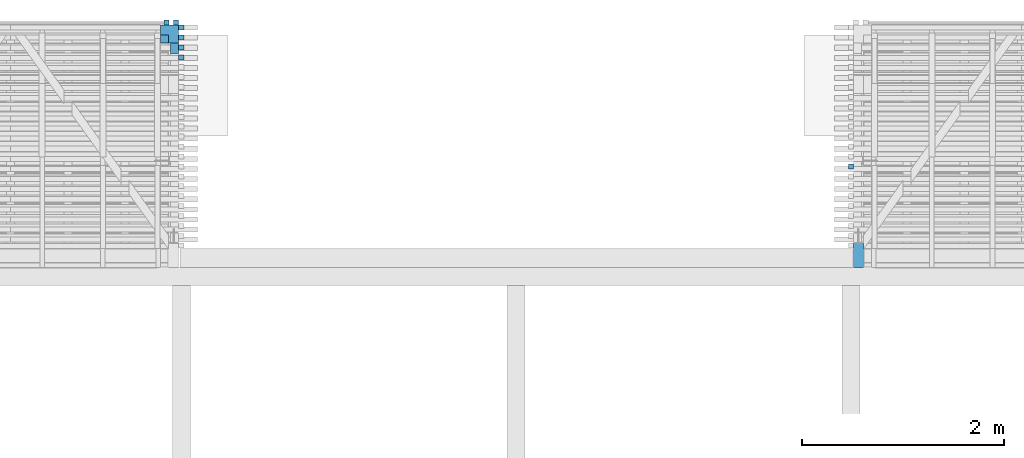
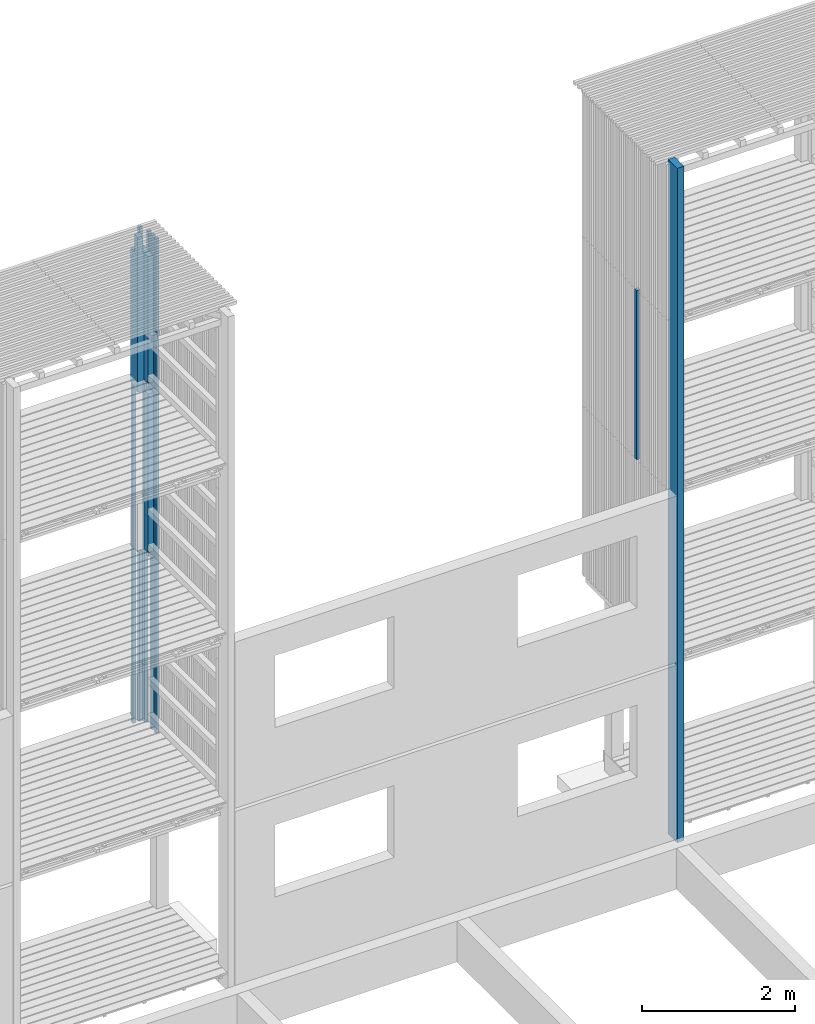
# One storey, part 32 of 182: 19 beams.
"""IFC2X3 building model written with IfcOpenShell, lengths in metres."""

from ifc_helpers import new_model, si_unit, frame, origin, place, context, project, spatial, faceted_brep, element, save


model = new_model("IFC2X3")

# Units and contexts
model_context = context("Model", 3, precision=1e-06, world=origin())
ifc_project = project(units=[si_unit("LENGTHUNIT", "METRE"), si_unit("PLANEANGLEUNIT", "RADIAN")], contexts=[model_context])

# Site, building, storey
site = spatial("IfcSite", under=ifc_project, CompositionType="ELEMENT")
building = spatial("IfcBuilding", under=site, CompositionType="ELEMENT")
storey = spatial("IfcBuildingStorey", under=building, Name="vs", CompositionType="ELEMENT", Elevation=-0.85)

# Beams
placement = place(None, origin())
beam_1_placement = place(placement, frame((13.299197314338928, 11.470532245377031, 5.274999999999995), z_axis=(1.0, 0.0, 0.0), x_axis=(0.0, 0.0, 1.0)))
element("IfcBeam", 1, at=beam_1_placement, inside=storey, Name="Bardage", context=model_context, shape_type="Brep", body=[
    faceted_brep([(2.699999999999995, 0.024999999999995, 0.025000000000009), (2.699999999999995, -0.025000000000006, 0.025000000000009), (2.699999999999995, -0.025000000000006, -0.025000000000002), (2.699999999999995, 0.024999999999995, -0.025000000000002), (1e-15, 0.024999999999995, 0.025000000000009), (2.699999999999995, 0.024999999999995, 0.025000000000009), (2.699999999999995, 0.024999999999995, -0.025000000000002), (1e-15, 0.024999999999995, -0.025000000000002), (1e-15, -0.025000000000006, 0.025000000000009), (1e-15, 0.024999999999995, 0.025000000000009), (1e-15, 0.024999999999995, -0.025000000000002), (1e-15, -0.025000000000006, -0.025000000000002), (1e-15, 0.024999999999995, 0.025000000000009), (1e-15, -0.025000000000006, 0.025000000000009), (2.699999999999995, -0.025000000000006, 0.025000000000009), (2.699999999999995, 0.024999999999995, 0.025000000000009), (1e-15, -0.025000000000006, 0.025000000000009), (1e-15, -0.025000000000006, -0.025000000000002), (2.699999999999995, -0.025000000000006, -0.025000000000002), (2.699999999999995, -0.025000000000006, 0.025000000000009), (1e-15, -0.025000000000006, -0.025000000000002), (1e-15, 0.024999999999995, -0.025000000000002), (2.699999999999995, 0.024999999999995, -0.025000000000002), (2.699999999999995, -0.025000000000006, -0.025000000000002)], [[[0, 1, 2, 3]], [[4, 5, 6, 7]], [[8, 9, 10, 11]], [[12, 13, 14, 15]], [[16, 17, 18, 19]], [[20, 21, 22, 23]]]),
])
beam_2_placement = place(placement, frame((13.374197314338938, 10.590077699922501, 10.494999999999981), z_axis=(0.0, 1.0, 0.0), x_axis=(0.0, 0.0, -1.0)))
element("IfcBeam", 2, at=beam_2_placement, inside=storey, Name="Poteau", context=model_context, shape_type="Brep", body=[
    faceted_brep([(0.0, -0.049999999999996, 0.120000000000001), (0.0, -0.049999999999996, -0.120000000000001), (10.754999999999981, -0.049999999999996, -0.120000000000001), (10.754999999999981, -0.049999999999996, 0.120000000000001), (10.754999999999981, -0.049999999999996, -0.120000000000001), (0.0, -0.049999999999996, -0.120000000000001), (0.0, 0.049999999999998, -0.120000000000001), (10.754999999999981, 0.049999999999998, -0.120000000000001), (10.754999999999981, -0.049999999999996, 0.120000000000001), (10.754999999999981, -0.049999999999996, -0.120000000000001), (10.754999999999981, 0.049999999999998, -0.120000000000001), (10.754999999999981, 0.049999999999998, 0.120000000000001), (0.0, -0.049999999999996, 0.120000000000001), (10.754999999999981, -0.049999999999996, 0.120000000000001), (10.754999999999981, 0.049999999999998, 0.120000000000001), (0.0, 0.049999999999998, 0.120000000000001), (10.754999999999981, 0.049999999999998, -0.120000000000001), (0.0, 0.049999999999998, -0.120000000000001), (0.0, 0.049999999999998, 0.120000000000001), (10.754999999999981, 0.049999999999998, 0.120000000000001), (0.0, 0.049999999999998, 0.120000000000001), (0.0, 0.049999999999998, -0.120000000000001), (0.0, -0.049999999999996, -0.120000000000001), (0.0, -0.049999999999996, 0.120000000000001)], [[[0, 1, 2, 3]], [[4, 5, 6, 7]], [[8, 9, 10, 11]], [[12, 13, 14, 15]], [[16, 17, 18, 19]], [[20, 21, 22, 23]]]),
])
beam_3_placement = place(placement, frame((6.619197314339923, 12.895077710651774, 7.974999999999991), z_axis=(0.0, -1.0, 0.0), x_axis=(0.0, 0.0, 1.0)))
element("IfcBeam", 3, at=beam_3_placement, inside=storey, Name="Bardage", context=model_context, shape_type="Brep", body=[
    faceted_brep([(0.0, -0.025000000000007, 0.025000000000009), (0.0, 0.025000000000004, 0.025000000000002), (0.0, 0.02499999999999, -0.025000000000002), (0.0, -0.025000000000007, -0.024999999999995), (2.479999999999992, 0.02499999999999, -0.024999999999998), (2.479999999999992, 0.025000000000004, 0.024999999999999), (2.479999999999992, -0.025000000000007, 0.025000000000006), (2.479999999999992, -0.025000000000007, -0.024999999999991), (0.0, 0.025000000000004, 0.025000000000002), (0.0, -0.025000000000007, 0.025000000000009), (2.479999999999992, -0.025000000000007, 0.025000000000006), (2.479999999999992, 0.025000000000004, 0.024999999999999), (0.0, 0.02499999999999, -0.025000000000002), (0.0, 0.025000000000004, 0.025000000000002), (2.479999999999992, 0.025000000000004, 0.024999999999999), (2.479999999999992, 0.02499999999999, -0.024999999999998), (0.0, -0.025000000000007, -0.024999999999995), (0.0, 0.02499999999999, -0.025000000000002), (2.479999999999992, 0.02499999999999, -0.024999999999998), (2.479999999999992, -0.025000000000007, -0.024999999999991), (2.479999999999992, -0.025000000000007, 0.025000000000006), (0.0, -0.025000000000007, 0.025000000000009), (0.0, -0.025000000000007, -0.024999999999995), (2.479999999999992, -0.025000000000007, -0.024999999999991)], [[[0, 1, 2, 3]], [[4, 5, 6, 7]], [[8, 9, 10, 11]], [[12, 13, 14, 15]], [[16, 17, 18, 19]], [[20, 21, 22, 23]]]),
])
beam_4_placement = place(placement, frame((6.66919731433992, 12.550532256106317, 5.274999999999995), z_axis=(-1.0, 0.0, 0.0), x_axis=(0.0, 0.0, 1.0)))
element("IfcBeam", 4, at=beam_4_placement, inside=storey, Name="Bardage", context=model_context, shape_type="Brep", body=[
    faceted_brep([(1e-15, -0.025000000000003, 0.024999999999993), (1e-15, 0.024999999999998, 0.024999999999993), (1e-15, 0.024999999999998, -0.025000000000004), (1e-15, -0.025000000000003, -0.025000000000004), (2.699999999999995, -0.025000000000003, -0.025000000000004), (2.699999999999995, 0.024999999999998, -0.025000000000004), (2.699999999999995, 0.024999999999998, 0.024999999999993), (2.699999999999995, -0.025000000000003, 0.024999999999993), (1e-15, -0.025000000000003, 0.024999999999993), (1e-15, -0.025000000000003, -0.025000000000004), (2.699999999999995, -0.025000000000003, -0.025000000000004), (2.699999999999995, -0.025000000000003, 0.024999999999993), (2.699999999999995, -0.025000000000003, -0.025000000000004), (1e-15, -0.025000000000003, -0.025000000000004), (1e-15, 0.024999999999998, -0.025000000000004), (2.699999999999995, 0.024999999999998, -0.025000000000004), (2.699999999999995, 0.024999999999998, -0.025000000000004), (1e-15, 0.024999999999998, -0.025000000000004), (1e-15, 0.024999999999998, 0.024999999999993), (2.699999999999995, 0.024999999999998, 0.024999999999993), (2.699999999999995, 0.024999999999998, 0.024999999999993), (1e-15, 0.024999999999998, 0.024999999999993), (1e-15, -0.025000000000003, 0.024999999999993), (2.699999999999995, -0.025000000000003, 0.024999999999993)], [[[0, 1, 2, 3]], [[4, 5, 6, 7]], [[8, 9, 10, 11]], [[12, 13, 14, 15]], [[16, 17, 18, 19]], [[20, 21, 22, 23]]]),
])
beam_5_placement = place(placement, frame((6.66919731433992, 12.648714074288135, 7.974999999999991), z_axis=(-1.0, 0.0, 0.0), x_axis=(0.0, 0.0, 1.0)))
element("IfcBeam", 5, at=beam_5_placement, inside=storey, Name="Bardage", context=model_context, shape_type="Brep", body=[
    faceted_brep([(2.479999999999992, -0.025000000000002, 0.024999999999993), (2.479999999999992, -0.025000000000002, -0.025000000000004), (2.479999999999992, 0.024999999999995, -0.025000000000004), (2.479999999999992, 0.024999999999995, 0.024999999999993), (0.0, 0.024999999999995, 0.024999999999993), (0.0, -0.025000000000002, 0.024999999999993), (2.479999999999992, -0.025000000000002, 0.024999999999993), (2.479999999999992, 0.024999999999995, 0.024999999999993), (0.0, -0.025000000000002, 0.024999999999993), (0.0, 0.024999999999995, 0.024999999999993), (0.0, 0.024999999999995, -0.025000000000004), (0.0, -0.025000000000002, -0.025000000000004), (0.0, 0.024999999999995, -0.025000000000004), (0.0, 0.024999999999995, 0.024999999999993), (2.479999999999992, 0.024999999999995, 0.024999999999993), (2.479999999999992, 0.024999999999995, -0.025000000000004), (0.0, -0.025000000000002, -0.025000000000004), (0.0, 0.024999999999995, -0.025000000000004), (2.479999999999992, 0.024999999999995, -0.025000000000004), (2.479999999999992, -0.025000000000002, -0.025000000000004), (2.479999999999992, -0.025000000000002, 0.024999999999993), (0.0, -0.025000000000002, 0.024999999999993), (0.0, -0.025000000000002, -0.025000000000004), (2.479999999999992, -0.025000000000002, -0.025000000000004)], [[[0, 1, 2, 3]], [[4, 5, 6, 7]], [[8, 9, 10, 11]], [[12, 13, 14, 15]], [[16, 17, 18, 19]], [[20, 21, 22, 23]]]),
])
beam_6_placement = place(placement, frame((6.66919731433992, 12.550532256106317, 7.974999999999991), z_axis=(-1.0, 0.0, 0.0), x_axis=(0.0, 0.0, 1.0)))
element("IfcBeam", 6, at=beam_6_placement, inside=storey, Name="Bardage", context=model_context, shape_type="Brep", body=[
    faceted_brep([(2.479999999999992, -0.025000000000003, 0.024999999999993), (2.479999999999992, -0.025000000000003, -0.025000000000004), (2.479999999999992, 0.024999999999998, -0.025000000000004), (2.479999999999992, 0.024999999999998, 0.024999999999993), (0.0, 0.024999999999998, 0.024999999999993), (0.0, -0.025000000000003, 0.024999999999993), (2.479999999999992, -0.025000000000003, 0.024999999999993), (2.479999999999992, 0.024999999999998, 0.024999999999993), (0.0, -0.025000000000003, 0.024999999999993), (0.0, 0.024999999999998, 0.024999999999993), (0.0, 0.024999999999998, -0.025000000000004), (0.0, -0.025000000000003, -0.025000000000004), (0.0, 0.024999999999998, -0.025000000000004), (0.0, 0.024999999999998, 0.024999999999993), (2.479999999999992, 0.024999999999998, 0.024999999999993), (2.479999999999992, 0.024999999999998, -0.025000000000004), (0.0, -0.025000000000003, -0.025000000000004), (0.0, 0.024999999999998, -0.025000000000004), (2.479999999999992, 0.024999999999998, -0.025000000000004), (2.479999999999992, -0.025000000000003, -0.025000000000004), (2.479999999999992, -0.025000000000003, 0.024999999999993), (0.0, -0.025000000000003, 0.024999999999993), (0.0, -0.025000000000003, -0.025000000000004), (2.479999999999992, -0.025000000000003, -0.025000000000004)], [[[0, 1, 2, 3]], [[4, 5, 6, 7]], [[8, 9, 10, 11]], [[12, 13, 14, 15]], [[16, 17, 18, 19]], [[20, 21, 22, 23]]]),
])
beam_7_placement = place(placement, frame((6.66919731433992, 12.746895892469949, 7.974999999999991), z_axis=(-1.0, 0.0, 0.0), x_axis=(0.0, 0.0, 1.0)))
element("IfcBeam", 7, at=beam_7_placement, inside=storey, Name="Bardage", context=model_context, shape_type="Brep", body=[
    faceted_brep([(2.479999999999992, -0.025000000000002, 0.024999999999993), (2.479999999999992, -0.025000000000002, -0.025000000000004), (2.479999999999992, 0.025000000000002, -0.025000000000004), (2.479999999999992, 0.025000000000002, 0.024999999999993), (0.0, 0.024999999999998, 0.024999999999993), (0.0, -0.025000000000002, 0.024999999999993), (2.479999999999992, -0.025000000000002, 0.024999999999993), (2.479999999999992, 0.025000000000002, 0.024999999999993), (0.0, -0.025000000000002, 0.024999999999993), (0.0, 0.024999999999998, 0.024999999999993), (0.0, 0.024999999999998, -0.025000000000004), (0.0, -0.025000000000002, -0.025000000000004), (0.0, 0.024999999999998, -0.025000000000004), (0.0, 0.024999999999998, 0.024999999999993), (2.479999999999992, 0.025000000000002, 0.024999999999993), (2.479999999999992, 0.025000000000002, -0.025000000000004), (0.0, -0.025000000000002, -0.025000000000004), (0.0, 0.024999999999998, -0.025000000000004), (2.479999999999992, 0.025000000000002, -0.025000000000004), (2.479999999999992, -0.025000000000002, -0.025000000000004), (2.479999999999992, -0.025000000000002, 0.024999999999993), (0.0, -0.025000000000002, 0.024999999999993), (0.0, -0.025000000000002, -0.025000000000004), (2.479999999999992, -0.025000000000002, -0.025000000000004)], [[[0, 1, 2, 3]], [[4, 5, 6, 7]], [[8, 9, 10, 11]], [[12, 13, 14, 15]], [[16, 17, 18, 19]], [[20, 21, 22, 23]]]),
])
beam_8_placement = place(placement, frame((6.604197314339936, 12.640077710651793, 5.446999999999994), z_axis=(0.0, -1.0, 0.0), x_axis=(0.0, 0.0, 1.0)))
element("IfcBeam", 8, at=beam_8_placement, inside=storey, Name="Support bardage", context=model_context, shape_type="Brep", body=[
    faceted_brep([(2.527999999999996, -0.039999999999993, 0.050000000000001), (2.527999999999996, -0.039999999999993, -0.05), (2.527999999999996, 0.04000000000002, -0.05), (2.527999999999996, 0.04000000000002, 0.050000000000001), (0.0, 0.04000000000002, 0.050000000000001), (0.0, -0.039999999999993, 0.050000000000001), (2.527999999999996, -0.039999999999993, 0.050000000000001), (2.527999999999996, 0.04000000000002, 0.050000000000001), (0.0, -0.039999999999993, 0.050000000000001), (0.0, 0.04000000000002, 0.050000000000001), (0.0, 0.04000000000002, -0.05), (0.0, -0.039999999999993, -0.05), (2.527999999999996, -0.039999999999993, 0.050000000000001), (0.0, -0.039999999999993, 0.050000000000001), (0.0, -0.039999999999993, -0.05), (2.527999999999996, -0.039999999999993, -0.05), (2.527999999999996, -0.039999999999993, -0.05), (0.0, -0.039999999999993, -0.05), (0.0, 0.04000000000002, -0.05), (2.527999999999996, 0.04000000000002, -0.05), (2.527999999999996, 0.04000000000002, -0.05), (0.0, 0.04000000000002, -0.05), (0.0, 0.04000000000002, 0.050000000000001), (2.527999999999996, 0.04000000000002, 0.050000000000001)], [[[0, 1, 2, 3]], [[4, 5, 6, 7]], [[8, 9, 10, 11]], [[12, 13, 14, 15]], [[16, 17, 18, 19]], [[20, 21, 22, 23]]]),
])
beam_9_placement = place(placement, frame((6.604197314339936, 12.640077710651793, 8.146999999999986), z_axis=(0.0, -1.0, 0.0), x_axis=(0.0, 0.0, 1.0)))
element("IfcBeam", 9, at=beam_9_placement, inside=storey, Name="Support bardage", context=model_context, shape_type="Brep", body=[
    faceted_brep([(2.017999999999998, -0.039999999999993, -0.05), (2.017999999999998, 0.04000000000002, -0.05), (2.017999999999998, 0.04000000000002, 0.050000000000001), (2.017999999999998, -0.039999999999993, 0.050000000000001), (1e-15, -0.039999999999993, 0.050000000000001), (1e-15, 0.04000000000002, 0.050000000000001), (1e-15, 0.04000000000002, -0.05), (1e-15, -0.039999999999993, -0.05), (1e-15, -0.039999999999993, 0.050000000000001), (1e-15, -0.039999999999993, -0.05), (2.017999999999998, -0.039999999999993, -0.05), (2.017999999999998, -0.039999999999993, 0.050000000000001), (1e-15, 0.04000000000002, 0.050000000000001), (1e-15, -0.039999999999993, 0.050000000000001), (2.017999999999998, -0.039999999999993, 0.050000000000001), (2.017999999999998, 0.04000000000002, 0.050000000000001), (1e-15, 0.04000000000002, -0.05), (1e-15, 0.04000000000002, 0.050000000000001), (2.017999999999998, 0.04000000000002, 0.050000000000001), (2.017999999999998, 0.04000000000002, -0.05), (1e-15, -0.039999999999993, -0.05), (1e-15, 0.04000000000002, -0.05), (2.017999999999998, 0.04000000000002, -0.05), (2.017999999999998, -0.039999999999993, -0.05)], [[[0, 1, 2, 3]], [[4, 5, 6, 7]], [[8, 9, 10, 11]], [[12, 13, 14, 15]], [[16, 17, 18, 19]], [[20, 21, 22, 23]]]),
])
beam_10_placement = place(placement, frame((6.66919731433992, 12.648714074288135, 2.575000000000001), z_axis=(-1.0, 0.0, 0.0), x_axis=(0.0, 0.0, 1.0)))
element("IfcBeam", 10, at=beam_10_placement, inside=storey, Name="Bardage", context=model_context, shape_type="Brep", body=[
    faceted_brep([(0.0, -0.025000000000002, 0.024999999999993), (0.0, 0.024999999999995, 0.024999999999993), (0.0, 0.024999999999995, -0.025000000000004), (0.0, -0.025000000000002, -0.025000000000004), (2.699961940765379, 0.024999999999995, -0.025000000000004), (2.699961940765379, 0.024999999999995, 0.024999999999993), (2.699961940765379, -0.025000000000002, 0.024999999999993), (2.699961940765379, -0.025000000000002, -0.025000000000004), (0.0, -0.025000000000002, -0.025000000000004), (0.0, 0.024999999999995, -0.025000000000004), (2.699961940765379, 0.024999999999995, -0.025000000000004), (2.699961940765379, -0.025000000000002, -0.025000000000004), (2.699961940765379, 0.024999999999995, -0.025000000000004), (0.0, 0.024999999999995, -0.025000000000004), (0.0, 0.024999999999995, 0.024999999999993), (2.699961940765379, 0.024999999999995, 0.024999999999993), (2.699961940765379, 0.024999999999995, 0.024999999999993), (0.0, 0.024999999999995, 0.024999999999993), (0.0, -0.025000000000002, 0.024999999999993), (2.699961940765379, -0.025000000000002, 0.024999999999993), (2.699961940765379, -0.025000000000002, 0.024999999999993), (0.0, -0.025000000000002, 0.024999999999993), (0.0, -0.025000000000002, -0.025000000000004), (2.699961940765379, -0.025000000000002, -0.025000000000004)], [[[0, 1, 2, 3]], [[4, 5, 6, 7]], [[8, 9, 10, 11]], [[12, 13, 14, 15]], [[16, 17, 18, 19]], [[20, 21, 22, 23]]]),
])
beam_11_placement = place(placement, frame((6.521015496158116, 12.895077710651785, 2.575000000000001), z_axis=(0.0, -1.0, 0.0), x_axis=(0.0, 0.0, 1.0)))
element("IfcBeam", 11, at=beam_11_placement, inside=storey, Name="Bardage", context=model_context, shape_type="Brep", body=[
    faceted_brep([(2.699961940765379, -0.024999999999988, 0.025000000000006), (2.699961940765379, -0.025000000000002, -0.024999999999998), (2.699961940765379, 0.024999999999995, -0.025000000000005), (2.699961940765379, 0.025000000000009, 0.024999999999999), (0.0, -0.024999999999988, 0.025000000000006), (2.699961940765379, -0.024999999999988, 0.025000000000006), (2.699961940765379, 0.025000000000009, 0.024999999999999), (0.0, 0.025000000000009, 0.024999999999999), (0.0, -0.024999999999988, 0.025000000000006), (0.0, 0.025000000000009, 0.024999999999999), (0.0, 0.024999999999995, -0.025000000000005), (0.0, -0.025000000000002, -0.024999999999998), (0.0, -0.024999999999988, 0.025000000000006), (0.0, -0.025000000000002, -0.024999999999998), (2.699961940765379, -0.025000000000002, -0.024999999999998), (2.699961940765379, -0.024999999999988, 0.025000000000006), (0.0, -0.025000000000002, -0.024999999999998), (0.0, 0.024999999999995, -0.025000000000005), (2.699961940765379, 0.024999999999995, -0.025000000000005), (2.699961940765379, -0.025000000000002, -0.024999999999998), (0.0, 0.024999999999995, -0.025000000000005), (0.0, 0.025000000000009, 0.024999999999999), (2.699961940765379, 0.025000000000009, 0.024999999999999), (2.699961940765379, 0.024999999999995, -0.025000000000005)], [[[0, 1, 2, 3]], [[4, 5, 6, 7]], [[8, 9, 10, 11]], [[12, 13, 14, 15]], [[16, 17, 18, 19]], [[20, 21, 22, 23]]]),
])
beam_12_placement = place(placement, frame((6.66919731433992, 12.84507771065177, 5.274999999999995), z_axis=(-1.0, 0.0, 0.0), x_axis=(0.0, 0.0, 1.0)))
element("IfcBeam", 12, at=beam_12_placement, inside=storey, Name="Bardage", context=model_context, shape_type="Brep", body=[
    faceted_brep([(1e-15, -0.025000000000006, 0.024999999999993), (1e-15, 0.024999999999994, 0.024999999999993), (1e-15, 0.024999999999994, -0.025000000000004), (1e-15, -0.025000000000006, -0.025000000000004), (2.699999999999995, -0.025000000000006, -0.025000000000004), (2.699999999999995, 0.024999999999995, -0.025000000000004), (2.699999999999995, 0.024999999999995, 0.024999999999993), (2.699999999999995, -0.025000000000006, 0.024999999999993), (1e-15, -0.025000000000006, 0.024999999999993), (1e-15, -0.025000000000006, -0.025000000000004), (2.699999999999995, -0.025000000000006, -0.025000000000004), (2.699999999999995, -0.025000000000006, 0.024999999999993), (2.699999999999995, -0.025000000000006, -0.025000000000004), (1e-15, -0.025000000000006, -0.025000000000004), (1e-15, 0.024999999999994, -0.025000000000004), (2.699999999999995, 0.024999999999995, -0.025000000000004), (2.699999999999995, 0.024999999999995, -0.025000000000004), (1e-15, 0.024999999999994, -0.025000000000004), (1e-15, 0.024999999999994, 0.024999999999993), (2.699999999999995, 0.024999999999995, 0.024999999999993), (2.699999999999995, 0.024999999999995, 0.024999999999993), (1e-15, 0.024999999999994, 0.024999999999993), (1e-15, -0.025000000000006, 0.024999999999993), (2.699999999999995, -0.025000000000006, 0.024999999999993)], [[[0, 1, 2, 3]], [[4, 5, 6, 7]], [[8, 9, 10, 11]], [[12, 13, 14, 15]], [[16, 17, 18, 19]], [[20, 21, 22, 23]]]),
])
beam_13_placement = place(placement, frame((6.66919731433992, 12.84507771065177, 2.575000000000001), z_axis=(-1.0, 0.0, 0.0), x_axis=(0.0, 0.0, 1.0)))
element("IfcBeam", 13, at=beam_13_placement, inside=storey, Name="Bardage", context=model_context, shape_type="Brep", body=[
    faceted_brep([(0.0, -0.025000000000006, 0.024999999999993), (0.0, 0.024999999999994, 0.024999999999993), (0.0, 0.024999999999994, -0.025000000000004), (0.0, -0.025000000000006, -0.025000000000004), (2.699961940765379, 0.024999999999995, -0.025000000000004), (2.699961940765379, 0.024999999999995, 0.024999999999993), (2.699961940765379, -0.025000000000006, 0.024999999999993), (2.699961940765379, -0.025000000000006, -0.025000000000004), (0.0, -0.025000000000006, -0.025000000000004), (0.0, 0.024999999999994, -0.025000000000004), (2.699961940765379, 0.024999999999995, -0.025000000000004), (2.699961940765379, -0.025000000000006, -0.025000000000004), (2.699961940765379, 0.024999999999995, -0.025000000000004), (0.0, 0.024999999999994, -0.025000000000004), (0.0, 0.024999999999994, 0.024999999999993), (2.699961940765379, 0.024999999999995, 0.024999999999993), (2.699961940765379, 0.024999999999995, 0.024999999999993), (0.0, 0.024999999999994, 0.024999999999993), (0.0, -0.025000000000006, 0.024999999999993), (2.699961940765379, -0.025000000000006, 0.024999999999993), (2.699961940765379, -0.025000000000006, 0.024999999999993), (0.0, -0.025000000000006, 0.024999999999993), (0.0, -0.025000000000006, -0.025000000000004), (2.699961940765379, -0.025000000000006, -0.025000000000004)], [[[0, 1, 2, 3]], [[4, 5, 6, 7]], [[8, 9, 10, 11]], [[12, 13, 14, 15]], [[16, 17, 18, 19]], [[20, 21, 22, 23]]]),
])
beam_14_placement = place(placement, frame((6.619197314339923, 12.895077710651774, 2.575000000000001), z_axis=(0.0, -1.0, 0.0), x_axis=(0.0, 0.0, 1.0)))
element("IfcBeam", 14, at=beam_14_placement, inside=storey, Name="Bardage", context=model_context, shape_type="Brep", body=[
    faceted_brep([(2.699961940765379, -0.025000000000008, 0.025000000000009), (2.699961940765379, -0.025000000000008, -0.024999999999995), (2.699961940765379, 0.02499999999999, -0.025000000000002), (2.699961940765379, 0.025000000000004, 0.025000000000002), (0.0, -0.025000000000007, 0.025000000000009), (2.699961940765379, -0.025000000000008, 0.025000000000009), (2.699961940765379, 0.025000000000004, 0.025000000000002), (0.0, 0.025000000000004, 0.025000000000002), (0.0, -0.025000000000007, 0.025000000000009), (0.0, 0.025000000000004, 0.025000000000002), (0.0, 0.02499999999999, -0.025000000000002), (0.0, -0.025000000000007, -0.024999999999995), (0.0, -0.025000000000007, 0.025000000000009), (0.0, -0.025000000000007, -0.024999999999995), (2.699961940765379, -0.025000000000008, -0.024999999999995), (2.699961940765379, -0.025000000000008, 0.025000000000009), (0.0, -0.025000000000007, -0.024999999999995), (0.0, 0.02499999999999, -0.025000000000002), (2.699961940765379, 0.02499999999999, -0.025000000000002), (2.699961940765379, -0.025000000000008, -0.024999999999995), (0.0, 0.02499999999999, -0.025000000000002), (0.0, 0.025000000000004, 0.025000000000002), (2.699961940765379, 0.025000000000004, 0.025000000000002), (2.699961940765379, 0.02499999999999, -0.025000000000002)], [[[0, 1, 2, 3]], [[4, 5, 6, 7]], [[8, 9, 10, 11]], [[12, 13, 14, 15]], [[16, 17, 18, 19]], [[20, 21, 22, 23]]]),
])
beam_15_placement = place(placement, frame((6.66919731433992, 12.648714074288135, 5.274999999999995), z_axis=(-1.0, 0.0, 0.0), x_axis=(0.0, 0.0, 1.0)))
element("IfcBeam", 15, at=beam_15_placement, inside=storey, Name="Bardage", context=model_context, shape_type="Brep", body=[
    faceted_brep([(1e-15, -0.025000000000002, 0.024999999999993), (1e-15, 0.024999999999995, 0.024999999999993), (1e-15, 0.024999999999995, -0.025000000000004), (1e-15, -0.025000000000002, -0.025000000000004), (2.699999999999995, -0.025000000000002, -0.025000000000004), (2.699999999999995, 0.024999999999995, -0.025000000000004), (2.699999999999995, 0.024999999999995, 0.024999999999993), (2.699999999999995, -0.025000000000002, 0.024999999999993), (1e-15, -0.025000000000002, 0.024999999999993), (1e-15, -0.025000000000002, -0.025000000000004), (2.699999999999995, -0.025000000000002, -0.025000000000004), (2.699999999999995, -0.025000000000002, 0.024999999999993), (2.699999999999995, -0.025000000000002, -0.025000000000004), (1e-15, -0.025000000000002, -0.025000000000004), (1e-15, 0.024999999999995, -0.025000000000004), (2.699999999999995, 0.024999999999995, -0.025000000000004), (2.699999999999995, 0.024999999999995, -0.025000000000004), (1e-15, 0.024999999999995, -0.025000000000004), (1e-15, 0.024999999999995, 0.024999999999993), (2.699999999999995, 0.024999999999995, 0.024999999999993), (2.699999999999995, 0.024999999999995, 0.024999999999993), (1e-15, 0.024999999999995, 0.024999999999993), (1e-15, -0.025000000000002, 0.024999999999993), (2.699999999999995, -0.025000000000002, 0.024999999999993)], [[[0, 1, 2, 3]], [[4, 5, 6, 7]], [[8, 9, 10, 11]], [[12, 13, 14, 15]], [[16, 17, 18, 19]], [[20, 21, 22, 23]]]),
])
beam_16_placement = place(placement, frame((6.66919731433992, 12.550532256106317, 2.575000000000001), z_axis=(-1.0, 0.0, 0.0), x_axis=(0.0, 0.0, 1.0)))
element("IfcBeam", 16, at=beam_16_placement, inside=storey, Name="Bardage", context=model_context, shape_type="Brep", body=[
    faceted_brep([(0.0, -0.025000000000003, 0.024999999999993), (0.0, 0.024999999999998, 0.024999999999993), (0.0, 0.024999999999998, -0.025000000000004), (0.0, -0.025000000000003, -0.025000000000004), (2.699961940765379, 0.024999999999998, -0.025000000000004), (2.699961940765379, 0.024999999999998, 0.024999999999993), (2.699961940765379, -0.025000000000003, 0.024999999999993), (2.699961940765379, -0.025000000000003, -0.025000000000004), (0.0, -0.025000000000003, -0.025000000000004), (0.0, 0.024999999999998, -0.025000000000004), (2.699961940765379, 0.024999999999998, -0.025000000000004), (2.699961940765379, -0.025000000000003, -0.025000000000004), (2.699961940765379, 0.024999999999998, -0.025000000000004), (0.0, 0.024999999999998, -0.025000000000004), (0.0, 0.024999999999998, 0.024999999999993), (2.699961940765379, 0.024999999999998, 0.024999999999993), (2.699961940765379, 0.024999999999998, 0.024999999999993), (0.0, 0.024999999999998, 0.024999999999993), (0.0, -0.025000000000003, 0.024999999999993), (2.699961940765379, -0.025000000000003, 0.024999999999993), (2.699961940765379, -0.025000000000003, 0.024999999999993), (0.0, -0.025000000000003, 0.024999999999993), (0.0, -0.025000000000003, -0.025000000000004), (2.699961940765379, -0.025000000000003, -0.025000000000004)], [[[0, 1, 2, 3]], [[4, 5, 6, 7]], [[8, 9, 10, 11]], [[12, 13, 14, 15]], [[16, 17, 18, 19]], [[20, 21, 22, 23]]]),
])
beam_17_placement = place(placement, frame((6.554197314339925, 12.780077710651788, 7.979999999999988), z_axis=(0.0, -1.0, 0.0), x_axis=(0.0, 0.0, 1.0)))
element("IfcBeam", 17, at=beam_17_placement, inside=storey, Name="Poteau", context=model_context, shape_type="Brep", body=[
    faceted_brep([(2.474999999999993, 0.009999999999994, 0.089999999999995), (2.474999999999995, 0.009999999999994, 0.009999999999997), (2.474999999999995, 0.090000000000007, 0.009999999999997), (2.474999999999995, 0.090000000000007, 0.089999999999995), (2.194999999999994, 0.009999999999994, 0.089999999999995), (2.194999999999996, 0.009999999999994, 0.009999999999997), (2.474999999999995, 0.009999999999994, 0.009999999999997), (2.474999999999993, 0.009999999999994, 0.089999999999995), (2.194999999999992, -0.09, 0.089999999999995), (2.194999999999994, -0.09, -0.090000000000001), (2.194999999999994, 0.090000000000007, -0.090000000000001), (2.194999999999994, 0.090000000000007, 0.009999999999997), (2.194999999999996, 0.009999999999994, 0.009999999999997), (2.194999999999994, 0.009999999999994, 0.089999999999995), (2.474999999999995, 0.090000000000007, 0.009999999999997), (2.474999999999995, 0.009999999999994, 0.009999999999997), (2.194999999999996, 0.009999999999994, 0.009999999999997), (2.194999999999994, 0.090000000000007, 0.009999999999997), (0.059999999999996, 0.090000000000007, -0.010000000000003), (-1e-15, 0.090000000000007, -0.010000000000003), (-1e-15, 0.090000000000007, 0.089999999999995), (2.474999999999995, 0.090000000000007, 0.089999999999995), (2.474999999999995, 0.090000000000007, 0.009999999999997), (2.194999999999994, 0.090000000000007, 0.009999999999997), (2.194999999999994, 0.090000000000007, -0.090000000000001), (0.059999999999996, 0.090000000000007, -0.090000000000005), (0.139999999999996, -0.09, 0.089999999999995), (0.139999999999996, 0.009999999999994, 0.089999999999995), (0.139999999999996, 0.009999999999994, -0.090000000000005), (0.139999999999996, -0.09, -0.090000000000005), (-1e-15, 0.090000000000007, -0.010000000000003), (0.059999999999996, 0.090000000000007, -0.010000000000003), (0.059999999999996, 0.009999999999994, -0.009999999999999), (-1e-15, 0.009999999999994, -0.010000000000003), (-1e-15, 0.090000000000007, 0.089999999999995), (-1e-15, 0.090000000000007, -0.010000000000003), (-1e-15, 0.009999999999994, -0.010000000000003), (-1e-15, 0.009999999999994, 0.089999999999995), (0.139999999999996, 0.009999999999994, -0.090000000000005), (0.139999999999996, 0.009999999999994, 0.089999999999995), (-1e-15, 0.009999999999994, 0.089999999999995), (-1e-15, 0.009999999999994, -0.010000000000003), (0.059999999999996, 0.009999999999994, -0.009999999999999), (0.059999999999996, 0.009999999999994, -0.090000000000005), (0.059999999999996, 0.009999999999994, -0.090000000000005), (0.059999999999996, 0.009999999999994, -0.009999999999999), (0.059999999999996, 0.090000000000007, -0.010000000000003), (0.059999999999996, 0.090000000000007, -0.090000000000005), (0.139999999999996, -0.09, -0.090000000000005), (0.139999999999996, 0.009999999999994, -0.090000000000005), (0.059999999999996, 0.009999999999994, -0.090000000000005), (0.059999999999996, 0.090000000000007, -0.090000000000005), (2.194999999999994, 0.090000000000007, -0.090000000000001), (2.194999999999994, -0.09, -0.090000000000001), (2.194999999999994, -0.09, -0.090000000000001), (2.194999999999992, -0.09, 0.089999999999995), (0.139999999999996, -0.09, 0.089999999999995), (0.139999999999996, -0.09, -0.090000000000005), (-1e-15, 0.090000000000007, 0.089999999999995), (-1e-15, 0.009999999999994, 0.089999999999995), (0.139999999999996, 0.009999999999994, 0.089999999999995), (0.139999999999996, -0.09, 0.089999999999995), (2.194999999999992, -0.09, 0.089999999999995), (2.194999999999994, 0.009999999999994, 0.089999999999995), (2.474999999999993, 0.009999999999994, 0.089999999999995), (2.474999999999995, 0.090000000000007, 0.089999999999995)], [[[0, 1, 2, 3]], [[4, 5, 6, 7]], [[8, 9, 10, 11, 12, 13]], [[14, 15, 16, 17]], [[18, 19, 20, 21, 22, 23, 24, 25]], [[26, 27, 28, 29]], [[30, 31, 32, 33]], [[34, 35, 36, 37]], [[38, 39, 40, 41, 42, 43]], [[44, 45, 46, 47]], [[48, 49, 50, 51, 52, 53]], [[54, 55, 56, 57]], [[58, 59, 60, 61, 62, 63, 64, 65]]]),
])
beam_18_placement = place(placement, frame((6.66919731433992, 12.746895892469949, 5.274999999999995), z_axis=(-1.0, 0.0, 0.0), x_axis=(0.0, 0.0, 1.0)))
element("IfcBeam", 18, at=beam_18_placement, inside=storey, Name="Bardage", context=model_context, shape_type="Brep", body=[
    faceted_brep([(1e-15, -0.025000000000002, 0.024999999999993), (1e-15, 0.024999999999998, 0.024999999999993), (1e-15, 0.024999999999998, -0.025000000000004), (1e-15, -0.025000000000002, -0.025000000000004), (2.699999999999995, -0.025000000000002, -0.025000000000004), (2.699999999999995, 0.025000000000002, -0.025000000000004), (2.699999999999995, 0.025000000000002, 0.024999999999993), (2.699999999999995, -0.025000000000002, 0.024999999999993), (1e-15, -0.025000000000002, 0.024999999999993), (1e-15, -0.025000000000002, -0.025000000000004), (2.699999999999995, -0.025000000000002, -0.025000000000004), (2.699999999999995, -0.025000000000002, 0.024999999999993), (2.699999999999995, -0.025000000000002, -0.025000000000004), (1e-15, -0.025000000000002, -0.025000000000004), (1e-15, 0.024999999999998, -0.025000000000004), (2.699999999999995, 0.025000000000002, -0.025000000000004), (2.699999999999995, 0.025000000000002, -0.025000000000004), (1e-15, 0.024999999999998, -0.025000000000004), (1e-15, 0.024999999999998, 0.024999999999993), (2.699999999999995, 0.025000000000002, 0.024999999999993), (2.699999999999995, 0.025000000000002, 0.024999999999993), (1e-15, 0.024999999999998, 0.024999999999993), (1e-15, -0.025000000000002, 0.024999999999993), (2.699999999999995, -0.025000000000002, 0.024999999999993)], [[[0, 1, 2, 3]], [[4, 5, 6, 7]], [[8, 9, 10, 11]], [[12, 13, 14, 15]], [[16, 17, 18, 19]], [[20, 21, 22, 23]]]),
])
beam_19_placement = place(placement, frame((6.521015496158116, 12.895077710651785, 5.274999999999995), z_axis=(0.0, -1.0, 0.0), x_axis=(0.0, 0.0, 1.0)))
element("IfcBeam", 19, at=beam_19_placement, inside=storey, Name="Bardage", context=model_context, shape_type="Brep", body=[
    faceted_brep([(2.699999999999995, 0.025000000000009, 0.024999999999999), (2.699999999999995, -0.024999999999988, 0.025000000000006), (2.699999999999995, -0.025000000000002, -0.024999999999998), (2.699999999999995, 0.024999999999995, -0.025000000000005), (1e-15, 0.025000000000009, 0.024999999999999), (2.699999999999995, 0.025000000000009, 0.024999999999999), (2.699999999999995, 0.024999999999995, -0.025000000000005), (1e-15, 0.024999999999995, -0.025000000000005), (1e-15, -0.024999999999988, 0.025000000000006), (1e-15, 0.025000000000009, 0.024999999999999), (1e-15, 0.024999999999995, -0.025000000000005), (1e-15, -0.025000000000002, -0.024999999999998), (1e-15, 0.025000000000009, 0.024999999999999), (1e-15, -0.024999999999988, 0.025000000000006), (2.699999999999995, -0.024999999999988, 0.025000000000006), (2.699999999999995, 0.025000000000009, 0.024999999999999), (1e-15, -0.024999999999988, 0.025000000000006), (1e-15, -0.025000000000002, -0.024999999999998), (2.699999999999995, -0.025000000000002, -0.024999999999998), (2.699999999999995, -0.024999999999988, 0.025000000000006), (1e-15, -0.025000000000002, -0.024999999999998), (1e-15, 0.024999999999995, -0.025000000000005), (2.699999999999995, 0.024999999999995, -0.025000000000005), (2.699999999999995, -0.025000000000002, -0.024999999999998)], [[[0, 1, 2, 3]], [[4, 5, 6, 7]], [[8, 9, 10, 11]], [[12, 13, 14, 15]], [[16, 17, 18, 19]], [[20, 21, 22, 23]]]),
])

save(model, "model.ifc")
